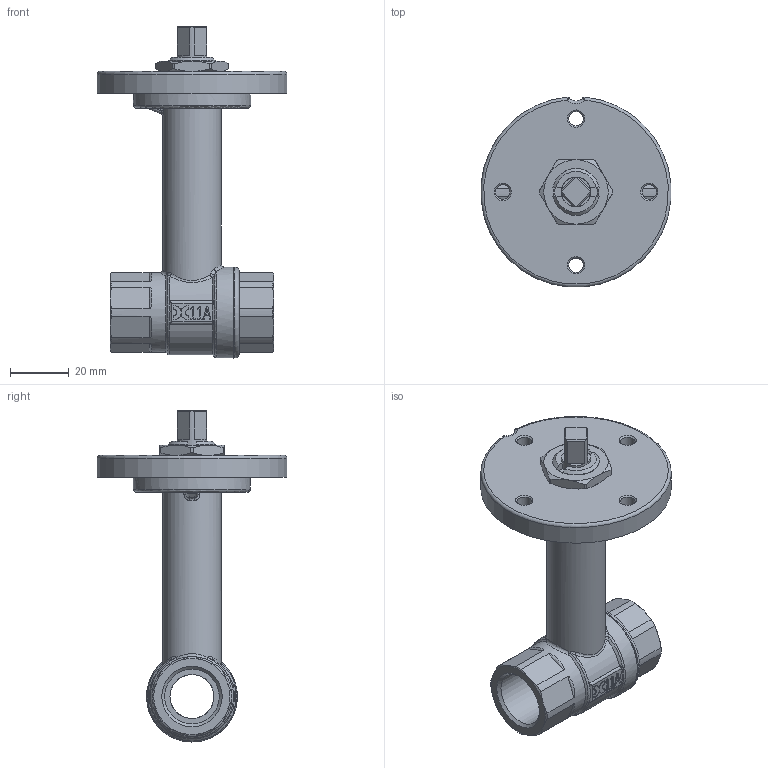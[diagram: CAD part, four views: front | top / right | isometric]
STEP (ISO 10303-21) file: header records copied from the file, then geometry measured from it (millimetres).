
FILE_DESCRIPTION((''),'2;1');
FILE_NAME('C:\Documents and Settings\ut4\Desktop\TICOM ULTIMATE\Art.109 PM SM 012.stp','2012-07-16T15:48:08',('ut4'),(''),'Autodesk Inventor 2013','Autodesk Inventor 2013','');
FILE_SCHEMA(('AUTOMOTIVE_DESIGN { 1 0 10303 214 1 1 1 1 }'));
Length unit declared in the file: millimetre
Products named in the file (13): Valv. mot. 012 art.109 PM SM; sfera 012; Dischetto portamotore SM Ø16 lav; Dado blocca piastra SM1; Anello antigrip. perno mot. Ø13; Boccola antigrip. perno mot. Ø13; O-ring 9.75x1; Sede 012; Manicotto femmina 012; Corpo prolunga mot. 012; Perno prolunga mot. 13 q8; Tubetto prolunga mot. 014-034; Ghiera ferma asta mot. 17-16 prolunga
Assembly tree (15 placements, depth 2):
  Valv. mot. 012 art.109 PM SM
    sfera 012
    Dischetto portamotore SM Ø16 lav
    Dado blocca piastra SM1
    Anello antigrip. perno mot. Ø13
    Boccola antigrip. perno mot. Ø13  x2
    O-ring 9.75x1  x2
    Sede 012  x2
    Manicotto femmina 012
    Corpo prolunga mot. 012
    Perno prolunga mot. 13 q8
    Tubetto prolunga mot. 014-034
    Ghiera ferma asta mot. 17-16 prolunga
Bounding box: 64.78 x 64.73 x 113.25 mm (x, y, z)
Volume: 65297.3 mm3; surface area: 45420.8 mm2
Topology: 15 solids, 15 shells, 589 faces, 1437 edges, 889 vertices
Faces by surface type: plane 235, cylinder 148, cone 70, bspline 69, torus 44, sphere 23
Full cylindrical faces by diameter (mm): 4.917 x4, 10 x4, 10.1 x2, 10.2 x1, 10.4 x2, 11 x3, 11.1 x1, 12.9 x6, 13 x2, 14.5 x1, 15 x6, 15.3 x1, 15.5 x1, 16 x2, 17 x1, 18.631 x1, 18.65 x1, 20 x1, 22 x4, 25.5 x1, 27 x1, 27.2 x2, 31 x2, 40 x1
Entity records: 18842 total; most frequent: CARTESIAN_POINT 5424, ORIENTED_EDGE 2574, DIRECTION 2567, EDGE_CURVE 1287, AXIS2_PLACEMENT_3D 994, VERTEX_POINT 851, EDGE_LOOP 716, VECTOR 579
